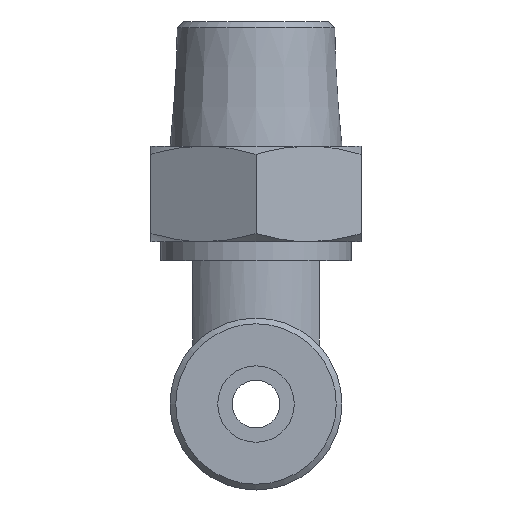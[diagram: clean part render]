
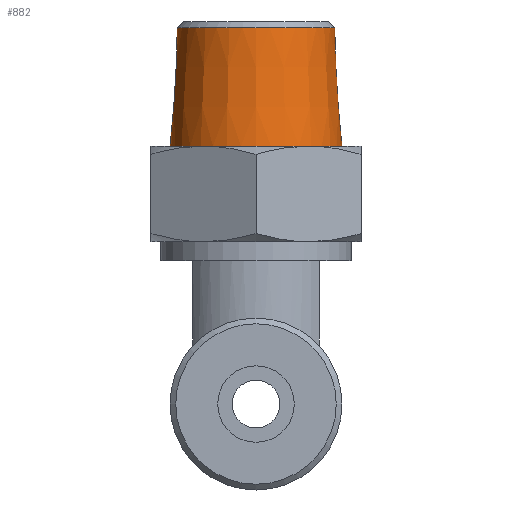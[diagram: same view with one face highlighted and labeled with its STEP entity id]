
A CAD part, front view. The second image highlights one B-rep face of the part: STEP entity #882.
In plain terms, the highlighted conical face has half-angle 3.5 degrees and reference radius 4.301 mm.
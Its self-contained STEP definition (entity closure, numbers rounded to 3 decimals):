
#78=CONICAL_SURFACE('',#973,4.301,0.061);
#97=FACE_OUTER_BOUND('',#159,.T.);
#159=EDGE_LOOP('',(#606,#607,#608,#609,#610));
#237=LINE('',#1415,#279);
#279=VECTOR('',#1116,4.301);
#321=CIRCLE('',#971,4.121);
#322=CIRCLE('',#972,4.121);
#323=CIRCLE('',#974,4.5);
#386=VERTEX_POINT('',#1408);
#387=VERTEX_POINT('',#1410);
#388=VERTEX_POINT('',#1414);
#469=EDGE_CURVE('',#386,#387,#321,.T.);
#470=EDGE_CURVE('',#387,#386,#322,.T.);
#471=EDGE_CURVE('',#387,#388,#237,.T.);
#472=EDGE_CURVE('',#388,#388,#323,.T.);
#606=ORIENTED_EDGE('',*,*,#469,.F.);
#607=ORIENTED_EDGE('',*,*,#470,.F.);
#608=ORIENTED_EDGE('',*,*,#471,.T.);
#609=ORIENTED_EDGE('',*,*,#472,.F.);
#610=ORIENTED_EDGE('',*,*,#471,.F.);
#882=ADVANCED_FACE('',(#97),#78,.T.);
#971=AXIS2_PLACEMENT_3D('',#1411,#1110,#1111);
#972=AXIS2_PLACEMENT_3D('',#1412,#1112,#1113);
#973=AXIS2_PLACEMENT_3D('',#1413,#1114,#1115);
#974=AXIS2_PLACEMENT_3D('',#1416,#1117,#1118);
#1110=DIRECTION('center_axis',(0.,0.,1.));
#1111=DIRECTION('ref_axis',(0.,-1.,0.));
#1112=DIRECTION('center_axis',(0.,0.,1.));
#1113=DIRECTION('ref_axis',(0.,-1.,0.));
#1114=DIRECTION('center_axis',(0.,0.,-1.));
#1115=DIRECTION('ref_axis',(0.,1.,0.));
#1116=DIRECTION('',(0.,-0.061,-0.998));
#1117=DIRECTION('center_axis',(0.,0.,-1.));
#1118=DIRECTION('ref_axis',(0.,1.,0.));
#1408=CARTESIAN_POINT('',(0.,4.121,19.701));
#1410=CARTESIAN_POINT('',(0.,-4.121,19.701));
#1411=CARTESIAN_POINT('Origin',(0.,0.,19.701));
#1412=CARTESIAN_POINT('Origin',(0.,0.,19.701));
#1413=CARTESIAN_POINT('Origin',(0.,0.,16.75));
#1414=CARTESIAN_POINT('',(0.,-4.5,13.5));
#1415=CARTESIAN_POINT('',(0.,-4.301,16.75));
#1416=CARTESIAN_POINT('Origin',(0.,0.,13.5));
